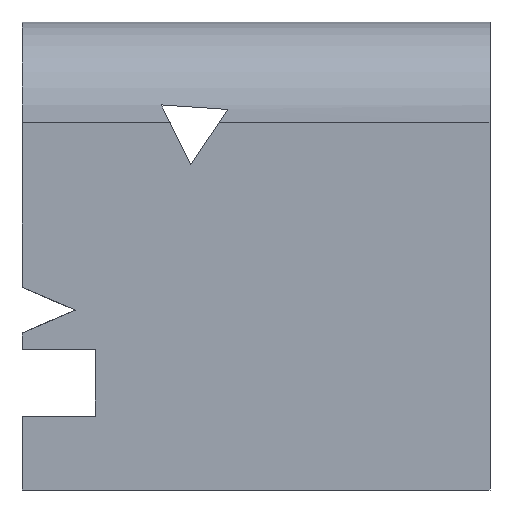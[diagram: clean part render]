
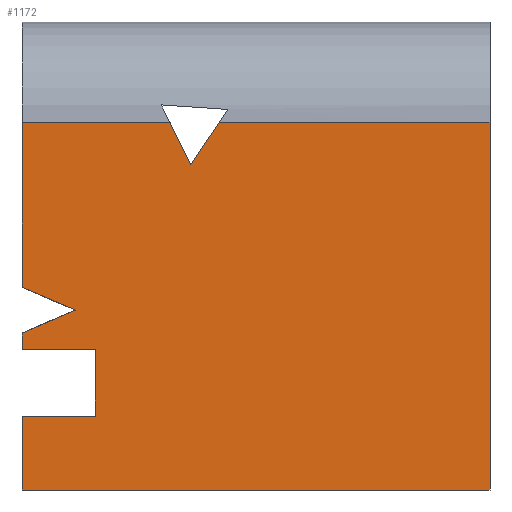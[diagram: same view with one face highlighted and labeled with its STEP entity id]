
A CAD part, left-side view. The second image highlights one B-rep face of the part: STEP entity #1172.
In plain terms, the highlighted planar face has unit normal (-1, 0, 0).
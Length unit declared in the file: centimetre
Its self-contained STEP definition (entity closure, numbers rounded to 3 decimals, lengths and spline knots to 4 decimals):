
#2 = CARTESIAN_POINT ( 'NONE',  ( 0., 1000., 0. ) ) ;
#22 = DIRECTION ( 'NONE',  ( 0., 0., -1. ) ) ;
#28 = EDGE_CURVE ( 'NONE', #660, #684, #1314, .T. ) ;
#54 = EDGE_LOOP ( 'NONE', ( #702, #560, #795, #872, #1140, #412, #1321, #1092, #1239, #69, #908, #511, #1285, #774 ) ) ;
#57 = CARTESIAN_POINT ( 'NONE',  ( 0., 1000., 433.039 ) ) ;
#64 = VECTOR ( 'NONE', #22, 100. ) ;
#67 = LINE ( 'NONE', #1366, #831 ) ;
#69 = ORIENTED_EDGE ( 'NONE', *, *, #1299, .T. ) ;
#81 = DIRECTION ( 'NONE',  ( 0., 0., -1. ) ) ;
#89 = CARTESIAN_POINT ( 'NONE',  ( 0., 639.4694, 694.9942 ) ) ;
#94 = EDGE_CURVE ( 'NONE', #1421, #1457, #1301, .T. ) ;
#124 = DIRECTION ( 'NONE',  ( 0., 0.919, 0.393 ) ) ;
#128 = DIRECTION ( 'NONE',  ( 0., 0., 1. ) ) ;
#137 = LINE ( 'NONE', #363, #64 ) ;
#139 = DIRECTION ( 'NONE',  ( 0., -0.557, 0.83 ) ) ;
#176 = CARTESIAN_POINT ( 'NONE',  ( 0., 0., 0. ) ) ;
#223 = EDGE_CURVE ( 'NONE', #1230, #391, #529, .T. ) ;
#247 = LINE ( 'NONE', #1200, #424 ) ;
#275 = VECTOR ( 'NONE', #1479, 100. ) ;
#342 = CARTESIAN_POINT ( 'NONE',  ( 0., 886.1957, 384.362 ) ) ;
#346 = CARTESIAN_POINT ( 'NONE',  ( 0., 843.5539, 157.7819 ) ) ;
#351 = CARTESIAN_POINT ( 'NONE',  ( 0., 1000., 157.7819 ) ) ;
#357 = LINE ( 'NONE', #346, #703 ) ;
#363 = CARTESIAN_POINT ( 'NONE',  ( 0., 1000., 1000. ) ) ;
#368 = VERTEX_POINT ( 'NONE', #342 ) ;
#381 = DIRECTION ( 'NONE',  ( 0., 0., -1. ) ) ;
#388 = CARTESIAN_POINT ( 'NONE',  ( 0., 578.8215, 785.3176 ) ) ;
#391 = VERTEX_POINT ( 'NONE', #2 ) ;
#393 = CARTESIAN_POINT ( 'NONE',  ( 0., 0., 785.3176 ) ) ;
#412 = ORIENTED_EDGE ( 'NONE', *, *, #94, .T. ) ;
#422 = DIRECTION ( 'NONE',  ( 0., -1., 0. ) ) ;
#424 = VECTOR ( 'NONE', #1425, 100. ) ;
#444 = EDGE_CURVE ( 'NONE', #660, #368, #607, .T. ) ;
#466 = EDGE_CURVE ( 'NONE', #1318, #1338, #719, .T. ) ;
#481 = CARTESIAN_POINT ( 'NONE',  ( 0., 1000., 1000. ) ) ;
#511 = ORIENTED_EDGE ( 'NONE', *, *, #444, .F. ) ;
#512 = VERTEX_POINT ( 'NONE', #57 ) ;
#514 = EDGE_CURVE ( 'NONE', #776, #1032, #67, .T. ) ;
#523 = CARTESIAN_POINT ( 'NONE',  ( 0., 0., 1000. ) ) ;
#529 = LINE ( 'NONE', #1006, #1227 ) ;
#539 = VERTEX_POINT ( 'NONE', #176 ) ;
#547 = DIRECTION ( 'NONE',  ( 0., 0., -1. ) ) ;
#558 = FACE_OUTER_BOUND ( 'NONE', #54, .T. ) ;
#560 = ORIENTED_EDGE ( 'NONE', *, *, #1143, .F. ) ;
#582 = CARTESIAN_POINT ( 'NONE',  ( 0., 1000., 335.6849 ) ) ;
#599 = DIRECTION ( 'NONE',  ( 0., -0.919, 0.393 ) ) ;
#607 = LINE ( 'NONE', #1422, #958 ) ;
#621 = VECTOR ( 'NONE', #124, 100. ) ;
#653 = VECTOR ( 'NONE', #422, 100. ) ;
#660 = VERTEX_POINT ( 'NONE', #582 ) ;
#684 = VERTEX_POINT ( 'NONE', #1162 ) ;
#702 = ORIENTED_EDGE ( 'NONE', *, *, #466, .F. ) ;
#703 = VECTOR ( 'NONE', #1146, 100. ) ;
#706 = VECTOR ( 'NONE', #139, 100. ) ;
#710 = CARTESIAN_POINT ( 'NONE',  ( 0., 886.1957, 384.362 ) ) ;
#719 = LINE ( 'NONE', #1180, #737 ) ;
#737 = VECTOR ( 'NONE', #128, 100. ) ;
#774 = ORIENTED_EDGE ( 'NONE', *, *, #1014, .F. ) ;
#776 = VERTEX_POINT ( 'NONE', #851 ) ;
#782 = CARTESIAN_POINT ( 'NONE',  ( 0., 843.5539, 300.2205 ) ) ;
#783 = DIRECTION ( 'NONE',  ( 0., 1., 0. ) ) ;
#789 = VECTOR ( 'NONE', #381, 100. ) ;
#795 = ORIENTED_EDGE ( 'NONE', *, *, #223, .T. ) ;
#796 = CARTESIAN_POINT ( 'NONE',  ( 0., 1000., 785.3176 ) ) ;
#806 = DIRECTION ( 'NONE',  ( 1., 0., 0. ) ) ;
#831 = VECTOR ( 'NONE', #783, 100. ) ;
#834 = CARTESIAN_POINT ( 'NONE',  ( 0., 843.5539, 157.7819 ) ) ;
#851 = CARTESIAN_POINT ( 'NONE',  ( 0., 683.7585, 785.3176 ) ) ;
#866 = EDGE_CURVE ( 'NONE', #776, #1077, #247, .T. ) ;
#872 = ORIENTED_EDGE ( 'NONE', *, *, #939, .T. ) ;
#908 = ORIENTED_EDGE ( 'NONE', *, *, #1151, .F. ) ;
#939 = EDGE_CURVE ( 'NONE', #391, #539, #1352, .T. ) ;
#945 = PLANE ( 'NONE',  #1429 ) ;
#958 = VECTOR ( 'NONE', #599, 100. ) ;
#982 = CARTESIAN_POINT ( 'NONE',  ( 0., 1000., 785.3176 ) ) ;
#985 = CARTESIAN_POINT ( 'NONE',  ( 0., 639.4694, 694.9942 ) ) ;
#1003 = EDGE_CURVE ( 'NONE', #1421, #539, #1256, .T. ) ;
#1006 = CARTESIAN_POINT ( 'NONE',  ( 0., 1000., 1000. ) ) ;
#1014 = EDGE_CURVE ( 'NONE', #1338, #684, #1027, .T. ) ;
#1027 = LINE ( 'NONE', #782, #275 ) ;
#1032 = VERTEX_POINT ( 'NONE', #796 ) ;
#1034 = CARTESIAN_POINT ( 'NONE',  ( 0., 1000., 1000. ) ) ;
#1077 = VERTEX_POINT ( 'NONE', #89 ) ;
#1092 = ORIENTED_EDGE ( 'NONE', *, *, #866, .F. ) ;
#1140 = ORIENTED_EDGE ( 'NONE', *, *, #1003, .F. ) ;
#1143 = EDGE_CURVE ( 'NONE', #1230, #1318, #357, .T. ) ;
#1146 = DIRECTION ( 'NONE',  ( 0., -1., 0. ) ) ;
#1151 = EDGE_CURVE ( 'NONE', #368, #512, #1399, .T. ) ;
#1162 = CARTESIAN_POINT ( 'NONE',  ( 0., 1000., 300.2205 ) ) ;
#1172 = ADVANCED_FACE ( 'NONE', ( #558 ), #945, .F. ) ;
#1176 = VECTOR ( 'NONE', #1210, 100. ) ;
#1180 = CARTESIAN_POINT ( 'NONE',  ( 0., 843.5539, 157.7819 ) ) ;
#1200 = CARTESIAN_POINT ( 'NONE',  ( 0., 702.156, 822.8377 ) ) ;
#1210 = DIRECTION ( 'NONE',  ( 0., 1., 0. ) ) ;
#1227 = VECTOR ( 'NONE', #547, 100. ) ;
#1230 = VERTEX_POINT ( 'NONE', #351 ) ;
#1239 = ORIENTED_EDGE ( 'NONE', *, *, #514, .T. ) ;
#1253 = CARTESIAN_POINT ( 'NONE',  ( 0., 1000., 0. ) ) ;
#1256 = LINE ( 'NONE', #523, #1509 ) ;
#1285 = ORIENTED_EDGE ( 'NONE', *, *, #28, .T. ) ;
#1299 = EDGE_CURVE ( 'NONE', #1032, #512, #137, .T. ) ;
#1301 = LINE ( 'NONE', #982, #1176 ) ;
#1304 = CARTESIAN_POINT ( 'NONE',  ( 0., 843.5539, 300.2205 ) ) ;
#1314 = LINE ( 'NONE', #481, #789 ) ;
#1318 = VERTEX_POINT ( 'NONE', #834 ) ;
#1321 = ORIENTED_EDGE ( 'NONE', *, *, #1351, .F. ) ;
#1324 = LINE ( 'NONE', #985, #706 ) ;
#1338 = VERTEX_POINT ( 'NONE', #1304 ) ;
#1351 = EDGE_CURVE ( 'NONE', #1077, #1457, #1324, .T. ) ;
#1352 = LINE ( 'NONE', #1253, #653 ) ;
#1366 = CARTESIAN_POINT ( 'NONE',  ( 0., 1000., 785.3176 ) ) ;
#1399 = LINE ( 'NONE', #710, #621 ) ;
#1404 = DIRECTION ( 'NONE',  ( 0., 0., -1. ) ) ;
#1421 = VERTEX_POINT ( 'NONE', #393 ) ;
#1422 = CARTESIAN_POINT ( 'NONE',  ( 0., 1000., 335.6849 ) ) ;
#1425 = DIRECTION ( 'NONE',  ( 0., -0.44, -0.898 ) ) ;
#1429 = AXIS2_PLACEMENT_3D ( 'NONE', #1034, #806, #1404 ) ;
#1457 = VERTEX_POINT ( 'NONE', #388 ) ;
#1479 = DIRECTION ( 'NONE',  ( 0., 1., 0. ) ) ;
#1509 = VECTOR ( 'NONE', #81, 100. ) ;
